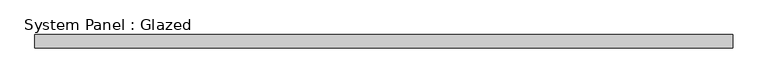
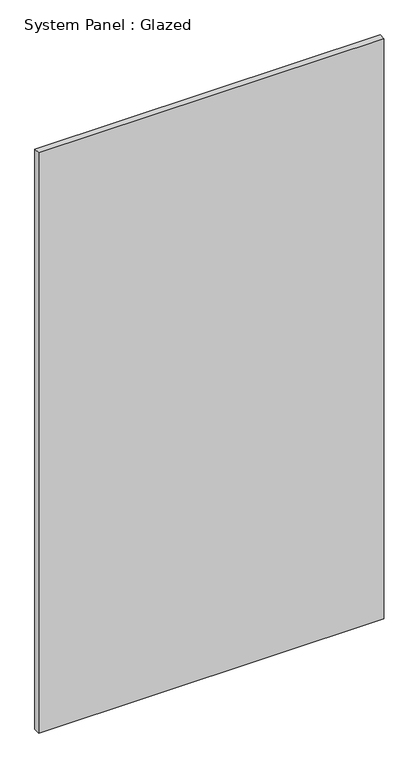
"""IFC4 building model written with IfcOpenShell, lengths in millimetres: plate geometry, System Panel : Glazed."""

import ifcopenshell
import ifcopenshell.guid

model = None  # the IFC model being written
_history = None  # IfcOwnerHistory: only IFC2X3 demands one
_inside = {}  # id of a spatial element -> (the spatial element, [elements in it])
_under = {}  # id of a project, library or spatial element -> (it, [spatial elements below it])
_declared = {}  # id of a project -> (the project, [libraries it declares])
_typed = {}  # id of a type object -> (the type object, [elements of that type])
_made_of = {}  # id of a material, layer set ... -> (it, [elements and type objects made of it])


def new_model(schema):
    """Start an empty IFC model of exactly this schema.

    Asked for "IFC4X3", IfcOpenShell would pick the latest addendum, in which some entities
    have other attributes; the version numbers below select the first issue.
    IFC2X3 requires an IfcOwnerHistory on every rooted entity: one is made here for all.
    """
    global model, _history
    if schema == "IFC4X3":
        model = ifcopenshell.file(schema_version=(4, 3, 0, 0))
    else:
        model = ifcopenshell.file(schema=schema)
    _inside.clear()
    _under.clear()
    _declared.clear()
    _typed.clear()
    _made_of.clear()
    _history = None
    if model.schema == "IFC2X3":
        org = make("IfcOrganization", Name="unknown")
        user = make(
            "IfcPersonAndOrganization",
            ThePerson=make("IfcPerson", FamilyName="unknown"),
            TheOrganization=org,
        )
        app = make(
            "IfcApplication",
            ApplicationDeveloper=org,
            Version="unknown",
            ApplicationFullName="unknown",
            ApplicationIdentifier="unknown",
        )
        _history = make(
            "IfcOwnerHistory",
            OwningUser=user,
            OwningApplication=app,
            ChangeAction="ADDED",
            CreationDate=0,
        )
    return model


def make(cls, **values):
    """One entity of the class cls with the attributes given. An attribute that is None is left unset."""
    return model.create_entity(
        cls, **{name: value for name, value in values.items() if value is not None}
    )


def rooted(cls, **values):
    """An entity with a GlobalId (a new one), such as an element, a storey or a relation."""
    return make(cls, GlobalId=ifcopenshell.guid.new(), OwnerHistory=_history, **values)


def si_unit(unit_type, name, prefix=None):
    """IfcSIUnit, for example si_unit("LENGTHUNIT", "METRE", prefix="MILLI")."""
    return make("IfcSIUnit", UnitType=unit_type, Prefix=prefix, Name=name)


def assignment(units):
    """IfcUnitAssignment: the units of a project."""
    return None if units is None else make("IfcUnitAssignment", Units=units)


def point(xyz):
    """IfcCartesianPoint."""
    return None if xyz is None else make("IfcCartesianPoint", Coordinates=xyz)


def direction(xyz):
    """IfcDirection."""
    return None if xyz is None else make("IfcDirection", DirectionRatios=xyz)


def frame(location, z_axis=None, x_axis=None):
    """IfcAxis2Placement3D, a coordinate frame: its origin and axes. An axis left out is left unset."""
    return make(
        "IfcAxis2Placement3D",
        Location=point(location),
        Axis=direction(z_axis),
        RefDirection=direction(x_axis),
    )


def origin():
    """The frame at (0, 0, 0) with its axes left unset."""
    return frame((0.0, 0.0, 0.0))


def origin_with_axes():
    """The frame at (0, 0, 0) with the z axis (0, 0, 1) and the x axis (1, 0, 0) written out."""
    return frame((0.0, 0.0, 0.0), z_axis=(0.0, 0.0, 1.0), x_axis=(1.0, 0.0, 0.0))


def place(relative_to, where):
    """IfcLocalPlacement: puts the frame where relative to a parent placement (None: the world)."""
    return make(
        "IfcLocalPlacement", PlacementRelTo=relative_to, RelativePlacement=where
    )


def context(
    kind, dimensions, precision=None, world=None, true_north=None, identifier=None
):
    """IfcGeometricRepresentationContext, for example the 3D "Model" context."""
    return make(
        "IfcGeometricRepresentationContext",
        ContextIdentifier=identifier,
        ContextType=kind,
        CoordinateSpaceDimension=dimensions,
        Precision=precision,
        WorldCoordinateSystem=world,
        TrueNorth=true_north,
    )


def project(units=None, contexts=None):
    """IfcProject with its units and contexts."""
    return rooted(
        "IfcProject",
        Name="project",
        RepresentationContexts=contexts,
        UnitsInContext=assignment(units),
    )


def spatial(cls, under=None, at=None, **own):
    """A site, building, storey or space (cls), placed at a placement, below another one or the project."""
    s = rooted(cls, ObjectPlacement=at, **own)
    if under is not None:
        _under.setdefault(under.id(), (under, []))[1].append(s)
    return s


def polyline(points):
    """IfcPolyline through the points."""
    return make("IfcPolyline", Points=[point(p) for p in points])


def outline(outer, holes=None, kind="AREA"):
    """IfcArbitraryClosedProfileDef: a profile drawn as a closed curve; with holes, ...WithVoids."""
    if holes is None:
        return make("IfcArbitraryClosedProfileDef", ProfileType=kind, OuterCurve=outer)
    return make(
        "IfcArbitraryProfileDefWithVoids",
        ProfileType=kind,
        OuterCurve=outer,
        InnerCurves=holes,
    )


def extrude(swept, where, along, depth):
    """IfcExtrudedAreaSolid: the profile swept, set in the frame where, extruded along a direction by depth."""
    return make(
        "IfcExtrudedAreaSolid",
        SweptArea=swept,
        Position=where,
        ExtrudedDirection=direction(along),
        Depth=depth,
    )


def shape(context_of_items, identifier, shape_type, items):
    """IfcShapeRepresentation: the items that make up one representation, for example the "Body"."""
    return make(
        "IfcShapeRepresentation",
        ContextOfItems=context_of_items,
        RepresentationIdentifier=identifier,
        RepresentationType=shape_type,
        Items=items,
    )


def source(mapping_origin, context_of_items, identifier, shape_type, items):
    """IfcRepresentationMap: a shape defined once, which mapped items show again and again."""
    return make(
        "IfcRepresentationMap",
        MappingOrigin=mapping_origin,
        MappedRepresentation=shape(context_of_items, identifier, shape_type, items),
    )


def transform(
    local_origin,
    x_axis=None,
    y_axis=None,
    z_axis=None,
    scale=None,
    scale2=None,
    scale3=None,
    uniform=True,
):
    """IfcCartesianTransformationOperator3D, or its non-uniform kind. x_axis, y_axis, z_axis: its Axis1, 2, 3."""
    if uniform:
        return make(
            "IfcCartesianTransformationOperator3D",
            Axis1=direction(x_axis),
            Axis2=direction(y_axis),
            LocalOrigin=point(local_origin),
            Scale=scale,
            Axis3=direction(z_axis),
        )
    return make(
        "IfcCartesianTransformationOperator3DnonUniform",
        Axis1=direction(x_axis),
        Axis2=direction(y_axis),
        LocalOrigin=point(local_origin),
        Scale=scale,
        Axis3=direction(z_axis),
        Scale2=scale2,
        Scale3=scale3,
    )


def mapped(mapping_source, mapping_target):
    """IfcMappedItem: shows the shape of a source again, moved by a transform."""
    return make(
        "IfcMappedItem", MappingSource=mapping_source, MappingTarget=mapping_target
    )


def made_of(thing, what):
    """Note that an element or type object is made of a material, layer set ...; save() writes the relation."""
    if what is not None:
        _made_of.setdefault(what.id(), (what, []))[1].append(thing)
    return thing


def element(
    cls,
    number,
    at=None,
    inside=None,
    cuts=None,
    type_object=None,
    material=None,
    context=None,
    identifier="Body",
    shape_type=None,
    held_by="IfcProductDefinitionShape",
    body=None,
    shapes=None,
    **own,
):
    """One element of the class cls, such as IfcWall. Its Tag is "e" and its number.

    at: its placement. inside: the storey or other place that contains it. cuts: it is an
    opening in that element (IfcRelVoidsElement). A single representation is given by context,
    identifier, shape_type and body (its items); several are given by shapes. held_by: the class
    of the entity that holds the representations. save() writes the other relations.
    """
    e = rooted(cls, Tag="e%d" % number, ObjectPlacement=at, **own)
    if body is not None:
        shapes = [shape(context, identifier, shape_type, body)]
    if shapes is not None:
        e.Representation = make(held_by, Representations=shapes)
    if inside is not None:
        _inside.setdefault(inside.id(), (inside, []))[1].append(e)
    if cuts is not None:
        rooted(
            "IfcRelVoidsElement", RelatingBuildingElement=cuts, RelatedOpeningElement=e
        )
    if type_object is not None:
        _typed.setdefault(type_object.id(), (type_object, []))[1].append(e)
    return made_of(e, material)


def aggregate(whole, parts):
    """IfcRelAggregates: a whole, such as a stair, and the parts it consists of."""
    return rooted("IfcRelAggregates", RelatingObject=whole, RelatedObjects=parts)


def save(model, path):
    """Write the relations noted so far, then the file.

    IfcRelAggregates (storeys below a building ...), IfcRelContainedInSpatialStructure (elements
    in a storey), IfcRelDefinesByType, IfcRelAssociatesMaterial and IfcRelDeclares: one each for
    every whole, place, type object, material and project.
    """
    for whole, parts in _under.values():
        aggregate(whole, parts)
    for where, things in _inside.values():
        rooted(
            "IfcRelContainedInSpatialStructure",
            RelatedElements=things,
            RelatingStructure=where,
        )
    for kind, things in _typed.values():
        rooted("IfcRelDefinesByType", RelatedObjects=things, RelatingType=kind)
    for what, things in _made_of.values():
        rooted("IfcRelAssociatesMaterial", RelatedObjects=things, RelatingMaterial=what)
    for by, libraries in _declared.values():
        rooted("IfcRelDeclares", RelatingContext=by, RelatedDefinitions=libraries)
    model.write(path)


def system_panel_glazed_6db0c983(model_context):
    return source(origin(), model_context, "Body", "SweptSolid", [
        extrude(outline(polyline([(668.2499999, 19.05), (-668.2499999, 19.05), (-668.2499999, 44.45), (668.2499999, 44.45), (668.2499999, 19.05)])), origin_with_axes(), (0.0, 0.0, 1.0), 2374.9),
    ])


if __name__ == "__main__":
    model = new_model("IFC4")
    model_context = context("Model", 3, world=origin())
    ifc_project = project(units=[si_unit("LENGTHUNIT", "METRE", prefix="MILLI")], contexts=[model_context])
    site = spatial("IfcSite", under=ifc_project)
    building = spatial("IfcBuilding", under=site)
    placement = place(None, origin())
    system_panel_glazed_shape = system_panel_glazed_6db0c983(model_context)
    element("IfcPlate", 1, ObjectType="System Panel : Glazed", at=placement, inside=building, context=model_context, shape_type="MappedRepresentation", body=[
        mapped(system_panel_glazed_shape, transform((0.0, 0.0, 0.0), x_axis=(1.0, 0.0, 0.0), y_axis=(0.0, 1.0, 0.0), z_axis=(0.0, 0.0, 1.0))),
    ])
    save(model, "model.ifc")
